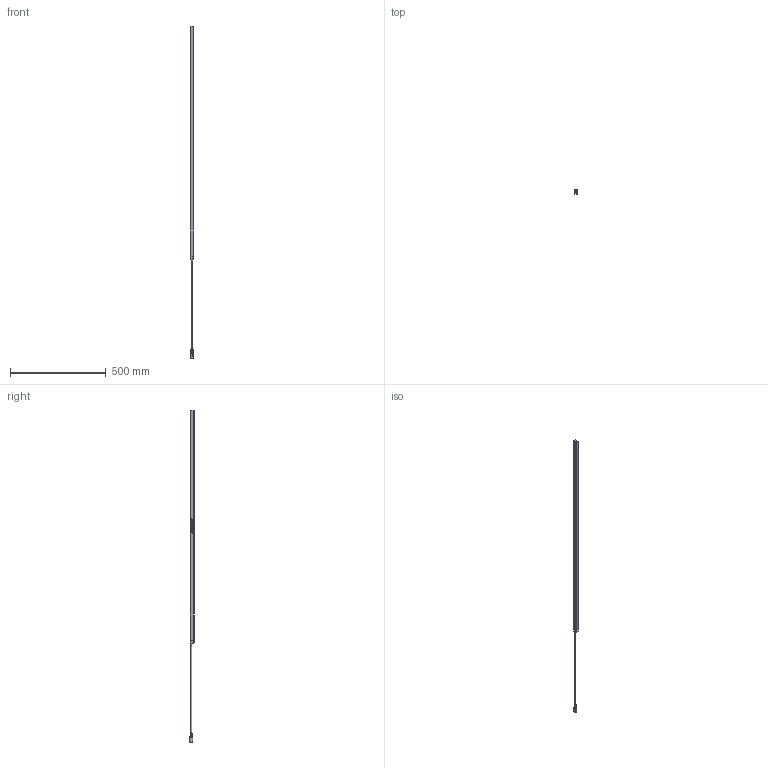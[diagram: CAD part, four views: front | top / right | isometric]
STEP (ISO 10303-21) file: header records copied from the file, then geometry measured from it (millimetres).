
FILE_DESCRIPTION (( 'STEP AP214' ), '1' );
FILE_NAME ('Rockwell Automation-$PARTNUMBER.STEP', '2015-07-08T19:21:16', ( 'Windows User' ), ( '' ), 'SwSTEP 2.0', 'SolidWorks 2015', '' );
FILE_SCHEMA (( 'AUTOMOTIVE_DESIGN' ));
Length unit declared in the file: millimetre
Products named in the file (4): Rockwell Automation-$PARTNUMBER; Rockwell Automation-$PARTNUMBER_Rockwell Automation-445L-P4E1200FP_Guardshield Micro 400 connectingcable_female; Rockwell Automation-$PARTNUMBER_Rockwell Automation-445L-P4E1200FP_Guardshield Micro 400 Profile 15x20_1200mm; Rockwell Automation-$PARTNUMBER_Rockwell Automation-445L-P4E1200FP_Guardshield Micro 400 end cap_Standard
Assembly tree (3 placements, depth 2):
  Rockwell Automation-$PARTNUMBER
    Rockwell Automation-$PARTNUMBER_Rockwell Automation-445L-P4E1200FP_Guardshield Micro 400 end cap_Standard
    Rockwell Automation-$PARTNUMBER_Rockwell Automation-445L-P4E1200FP_Guardshield Micro 400 Profile 15x20_1200mm
    Rockwell Automation-$PARTNUMBER_Rockwell Automation-445L-P4E1200FP_Guardshield Micro 400 connectingcable_female
Bounding box: 15.5 x 24.1 x 1735.84 mm (x, y, z)
Volume: 269242.3 mm3; surface area: 191695.5 mm2
Topology: 3 solids, 4 shells, 430 faces, 1094 edges, 722 vertices
Faces by surface type: plane 268, bspline 112, cylinder 30, cone 16, torus 4
Entity records: 20575 total; most frequent: CARTESIAN_POINT 8572, ORIENTED_EDGE 2188, DIRECTION 1612, EDGE_CURVE 1094, VECTOR 776, LINE 776, VERTEX_POINT 722, EDGE_LOOP 484
